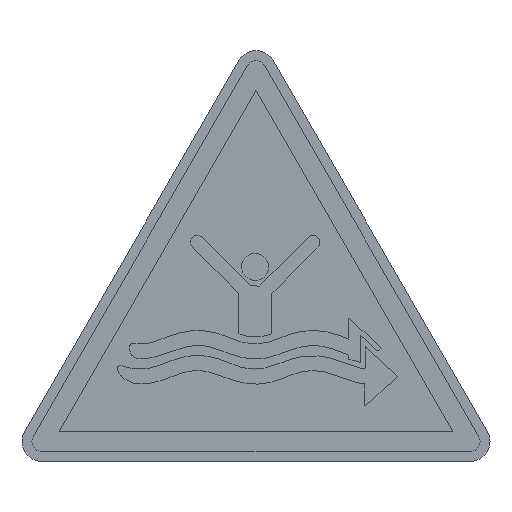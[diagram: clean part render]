
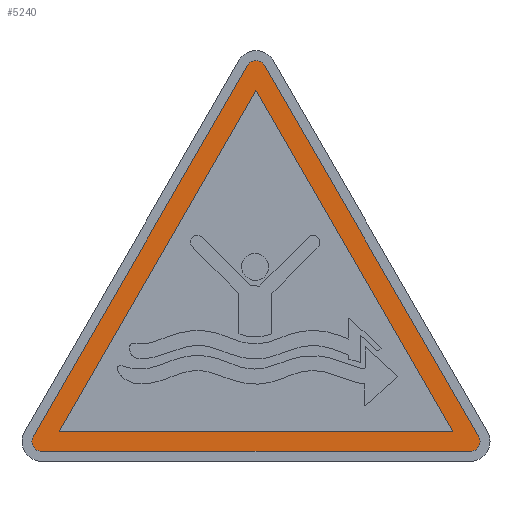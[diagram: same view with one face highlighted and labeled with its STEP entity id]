
A CAD part, top view. The second image highlights one B-rep face of the part: STEP entity #5240.
In plain terms, the highlighted planar face has unit normal (0, 0, 1).
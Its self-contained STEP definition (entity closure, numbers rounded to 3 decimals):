
#124 = VERTEX_POINT ( 'NONE', #6327 ) ;
#181 = CARTESIAN_POINT ( 'NONE',  ( 0., 39.301, 0.22 ) ) ;
#193 = DIRECTION ( 'NONE',  ( 1., 0., 0. ) ) ;
#432 = CARTESIAN_POINT ( 'NONE',  ( 19.804, 3., 0.22 ) ) ;
#480 = CARTESIAN_POINT ( 'NONE',  ( 19.804, 3., 0.22 ) ) ;
#556 = CARTESIAN_POINT ( 'NONE',  ( -19.804, 3., 0.22 ) ) ;
#641 = VERTEX_POINT ( 'NONE', #3561 ) ;
#723 = PLANE ( 'NONE',  #5521 ) ;
#767 = EDGE_CURVE ( 'NONE', #1819, #4940, #3871, .T. ) ;
#985 = VECTOR ( 'NONE', #4056, 1000. ) ;
#1044 = VERTEX_POINT ( 'NONE', #432 ) ;
#1208 = CIRCLE ( 'NONE', #1618, 1. ) ;
#1347 = CARTESIAN_POINT ( 'NONE',  ( 0.866, 39.801, 0.22 ) ) ;
#1469 = CIRCLE ( 'NONE', #4552, 1. ) ;
#1472 = EDGE_LOOP ( 'NONE', ( #3287, #4072, #3015, #5624, #5773, #3149, #7303 ) ) ;
#1523 = DIRECTION ( 'NONE',  ( 0., 0., 1. ) ) ;
#1541 = CARTESIAN_POINT ( 'NONE',  ( 22.402, 2.5, 0.22 ) ) ;
#1566 = LINE ( 'NONE', #2026, #7931 ) ;
#1618 = AXIS2_PLACEMENT_3D ( 'NONE', #2935, #7324, #8111 ) ;
#1739 = EDGE_CURVE ( 'NONE', #4940, #7131, #7392, .T. ) ;
#1819 = VERTEX_POINT ( 'NONE', #3639 ) ;
#1830 = EDGE_CURVE ( 'NONE', #1044, #124, #2465, .T. ) ;
#1979 = EDGE_CURVE ( 'NONE', #6391, #641, #2194, .T. ) ;
#2026 = CARTESIAN_POINT ( 'NONE',  ( -21.536, 1., 0.22 ) ) ;
#2194 = CIRCLE ( 'NONE', #6781, 1. ) ;
#2303 = CARTESIAN_POINT ( 'NONE',  ( 0., 37.301, 0.22 ) ) ;
#2439 = LINE ( 'NONE', #2303, #5655 ) ;
#2465 = LINE ( 'NONE', #480, #4739 ) ;
#2524 = EDGE_CURVE ( 'NONE', #4432, #1044, #7579, .T. ) ;
#2654 = CARTESIAN_POINT ( 'NONE',  ( -22.402, 2.5, 0.22 ) ) ;
#2699 = VERTEX_POINT ( 'NONE', #7248 ) ;
#2935 = CARTESIAN_POINT ( 'NONE',  ( -21.536, 2., 0.22 ) ) ;
#3015 = ORIENTED_EDGE ( 'NONE', *, *, #5819, .T. ) ;
#3049 = DIRECTION ( 'NONE',  ( -0.5, 0.866, 0. ) ) ;
#3111 = DIRECTION ( 'NONE',  ( -0.5, -0.866, 0. ) ) ;
#3149 = ORIENTED_EDGE ( 'NONE', *, *, #767, .T. ) ;
#3168 = DIRECTION ( 'NONE',  ( 1., 0., 0. ) ) ;
#3287 = ORIENTED_EDGE ( 'NONE', *, *, #5724, .T. ) ;
#3331 = DIRECTION ( 'NONE',  ( 1., 0., 0. ) ) ;
#3561 = CARTESIAN_POINT ( 'NONE',  ( -21.536, 1., 0.22 ) ) ;
#3582 = LINE ( 'NONE', #8084, #7505 ) ;
#3639 = CARTESIAN_POINT ( 'NONE',  ( 21.536, 1., 0.22 ) ) ;
#3780 = ORIENTED_EDGE ( 'NONE', *, *, #2524, .F. ) ;
#3871 = CIRCLE ( 'NONE', #7364, 1. ) ;
#4011 = CARTESIAN_POINT ( 'NONE',  ( 0., 39.301, 0.22 ) ) ;
#4056 = DIRECTION ( 'NONE',  ( -0.5, 0.866, 0. ) ) ;
#4072 = ORIENTED_EDGE ( 'NONE', *, *, #7547, .T. ) ;
#4432 = VERTEX_POINT ( 'NONE', #6806 ) ;
#4552 = AXIS2_PLACEMENT_3D ( 'NONE', #4011, #7935, #5893 ) ;
#4739 = VECTOR ( 'NONE', #3049, 1000. ) ;
#4883 = ORIENTED_EDGE ( 'NONE', *, *, #1830, .F. ) ;
#4940 = VERTEX_POINT ( 'NONE', #7106 ) ;
#5059 = FACE_OUTER_BOUND ( 'NONE', #1472, .T. ) ;
#5240 = ADVANCED_FACE ( 'NONE', ( #5059, #5792 ), #723, .T. ) ;
#5279 = DIRECTION ( 'NONE',  ( 0., 0., 1. ) ) ;
#5330 = EDGE_CURVE ( 'NONE', #641, #1819, #1566, .T. ) ;
#5521 = AXIS2_PLACEMENT_3D ( 'NONE', #181, #1523, #3331 ) ;
#5611 = CARTESIAN_POINT ( 'NONE',  ( -21.536, 2., 0.22 ) ) ;
#5624 = ORIENTED_EDGE ( 'NONE', *, *, #1979, .T. ) ;
#5655 = VECTOR ( 'NONE', #3111, 1000. ) ;
#5724 = EDGE_CURVE ( 'NONE', #7131, #2699, #1469, .T. ) ;
#5737 = EDGE_LOOP ( 'NONE', ( #3780, #6199, #4883 ) ) ;
#5773 = ORIENTED_EDGE ( 'NONE', *, *, #5330, .T. ) ;
#5792 = FACE_BOUND ( 'NONE', #5737, .T. ) ;
#5819 = EDGE_CURVE ( 'NONE', #7125, #6391, #1208, .T. ) ;
#5870 = DIRECTION ( 'NONE',  ( -0.5, -0.866, 0. ) ) ;
#5893 = DIRECTION ( 'NONE',  ( 1., 0., 0. ) ) ;
#6199 = ORIENTED_EDGE ( 'NONE', *, *, #7765, .F. ) ;
#6264 = VECTOR ( 'NONE', #3168, 1000. ) ;
#6327 = CARTESIAN_POINT ( 'NONE',  ( 0., 37.301, 0.22 ) ) ;
#6391 = VERTEX_POINT ( 'NONE', #7677 ) ;
#6578 = DIRECTION ( 'NONE',  ( 1., 0., 0. ) ) ;
#6781 = AXIS2_PLACEMENT_3D ( 'NONE', #5611, #7350, #193 ) ;
#6806 = CARTESIAN_POINT ( 'NONE',  ( -19.804, 3., 0.22 ) ) ;
#7106 = CARTESIAN_POINT ( 'NONE',  ( 22.402, 2.5, 0.22 ) ) ;
#7115 = DIRECTION ( 'NONE',  ( 1., 0., 0. ) ) ;
#7125 = VERTEX_POINT ( 'NONE', #2654 ) ;
#7131 = VERTEX_POINT ( 'NONE', #1347 ) ;
#7154 = CARTESIAN_POINT ( 'NONE',  ( 21.536, 2., 0.22 ) ) ;
#7248 = CARTESIAN_POINT ( 'NONE',  ( -0.866, 39.801, 0.22 ) ) ;
#7303 = ORIENTED_EDGE ( 'NONE', *, *, #1739, .T. ) ;
#7324 = DIRECTION ( 'NONE',  ( 0., 0., 1. ) ) ;
#7350 = DIRECTION ( 'NONE',  ( 0., 0., 1. ) ) ;
#7364 = AXIS2_PLACEMENT_3D ( 'NONE', #7154, #5279, #7115 ) ;
#7392 = LINE ( 'NONE', #1541, #985 ) ;
#7505 = VECTOR ( 'NONE', #5870, 1000. ) ;
#7547 = EDGE_CURVE ( 'NONE', #2699, #7125, #3582, .T. ) ;
#7579 = LINE ( 'NONE', #556, #6264 ) ;
#7677 = CARTESIAN_POINT ( 'NONE',  ( -22.536, 2., 0.22 ) ) ;
#7765 = EDGE_CURVE ( 'NONE', #124, #4432, #2439, .T. ) ;
#7931 = VECTOR ( 'NONE', #6578, 1000. ) ;
#7935 = DIRECTION ( 'NONE',  ( 0., 0., 1. ) ) ;
#8084 = CARTESIAN_POINT ( 'NONE',  ( -0.866, 39.801, 0.22 ) ) ;
#8111 = DIRECTION ( 'NONE',  ( 1., 0., 0. ) ) ;
